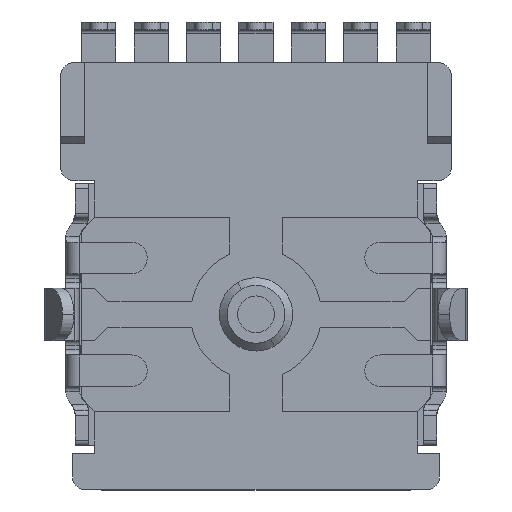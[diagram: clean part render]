
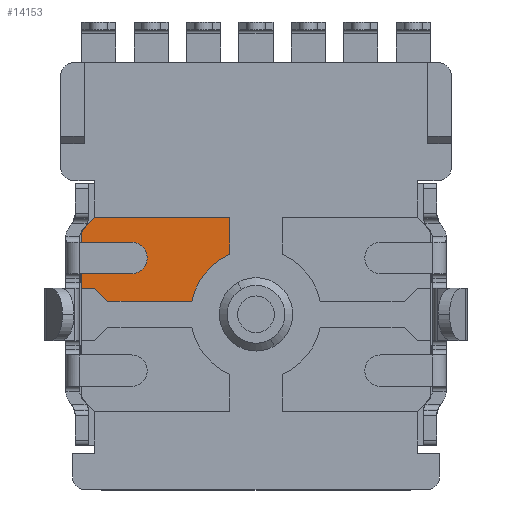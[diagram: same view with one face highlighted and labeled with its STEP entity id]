
A CAD part, front view. The second image highlights one B-rep face of the part: STEP entity #14153.
In plain terms, the highlighted planar face has unit normal (0, -1, 0).
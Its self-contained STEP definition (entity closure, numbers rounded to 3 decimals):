
#81 = CARTESIAN_POINT ( 'NONE',  ( -5.65, 0.8, -9.1 ) ) ;
#88 = EDGE_CURVE ( 'NONE', #7129, #28753, #19521, .T. ) ;
#111 = CARTESIAN_POINT ( 'NONE',  ( -6.15, 0.8, -8.6 ) ) ;
#2047 = ORIENTED_EDGE ( 'NONE', *, *, #88, .T. ) ;
#2129 = EDGE_LOOP ( 'NONE', ( #2047, #27870, #16487, #3308, #2990, #14058, #22866, #21583 ) ) ;
#2411 = VERTEX_POINT ( 'NONE', #24140 ) ;
#2789 = LINE ( 'NONE', #81, #10989 ) ;
#2990 = ORIENTED_EDGE ( 'NONE', *, *, #15950, .T. ) ;
#3308 = ORIENTED_EDGE ( 'NONE', *, *, #7298, .T. ) ;
#3692 = LINE ( 'NONE', #9481, #21626 ) ;
#4591 = EDGE_CURVE ( 'NONE', #2411, #35171, #32073, .T. ) ;
#4666 = CARTESIAN_POINT ( 'NONE',  ( 0., 0.8, -9.6 ) ) ;
#4823 = CARTESIAN_POINT ( 'NONE',  ( -6.65, 0.8, -5.9 ) ) ;
#5063 = CARTESIAN_POINT ( 'NONE',  ( -6.15, 0.8, -5.9 ) ) ;
#6533 = DIRECTION ( 'NONE',  ( 1., 0., 0. ) ) ;
#6778 = VECTOR ( 'NONE', #7216, 1000. ) ;
#6911 = LINE ( 'NONE', #30497, #22990 ) ;
#7129 = VERTEX_POINT ( 'NONE', #29723 ) ;
#7216 = DIRECTION ( 'NONE',  ( -0.707, 0., -0.707 ) ) ;
#7298 = EDGE_CURVE ( 'NONE', #35171, #27338, #6911, .T. ) ;
#7558 = FACE_OUTER_BOUND ( 'NONE', #2129, .T. ) ;
#9051 = DIRECTION ( 'NONE',  ( 0., 1., 0. ) ) ;
#9481 = CARTESIAN_POINT ( 'NONE',  ( -1., 0.8, -7.309 ) ) ;
#10989 = VECTOR ( 'NONE', #27466, 1000. ) ;
#11297 = VECTOR ( 'NONE', #36545, 1000. ) ;
#13912 = CARTESIAN_POINT ( 'NONE',  ( -5.65, 0.8, -9.1 ) ) ;
#14058 = ORIENTED_EDGE ( 'NONE', *, *, #20296, .T. ) ;
#14153 = ADVANCED_FACE ( 'NONE', ( #7558 ), #37504, .T. ) ;
#14665 = CARTESIAN_POINT ( 'NONE',  ( -6.65, 0.8, -8.6 ) ) ;
#14902 = CIRCLE ( 'NONE', #32198, 2.5 ) ;
#15521 = EDGE_CURVE ( 'NONE', #28753, #2411, #30234, .T. ) ;
#15559 = CARTESIAN_POINT ( 'NONE',  ( -4.925, 0.8, -4.675 ) ) ;
#15950 = EDGE_CURVE ( 'NONE', #27338, #37645, #25850, .T. ) ;
#16487 = ORIENTED_EDGE ( 'NONE', *, *, #4591, .T. ) ;
#17377 = DIRECTION ( 'NONE',  ( 0., 0., -1. ) ) ;
#19330 = DIRECTION ( 'NONE',  ( 0., 0., -1. ) ) ;
#19521 = LINE ( 'NONE', #36729, #11297 ) ;
#20296 = EDGE_CURVE ( 'NONE', #37645, #25501, #2789, .T. ) ;
#20746 = VECTOR ( 'NONE', #17377, 1000. ) ;
#21252 = DIRECTION ( 'NONE',  ( 0., 0., 1. ) ) ;
#21267 = AXIS2_PLACEMENT_3D ( 'NONE', #4666, #34221, #19330 ) ;
#21583 = ORIENTED_EDGE ( 'NONE', *, *, #23581, .T. ) ;
#21626 = VECTOR ( 'NONE', #21252, 1000. ) ;
#22138 = CARTESIAN_POINT ( 'NONE',  ( -1., 0.8, -7.309 ) ) ;
#22190 = CARTESIAN_POINT ( 'NONE',  ( -2.449, 0.8, -9.1 ) ) ;
#22866 = ORIENTED_EDGE ( 'NONE', *, *, #37841, .T. ) ;
#22990 = VECTOR ( 'NONE', #6533, 1000. ) ;
#23581 = EDGE_CURVE ( 'NONE', #24393, #7129, #3692, .T. ) ;
#24140 = CARTESIAN_POINT ( 'NONE',  ( -6.65, 0.8, -6.4 ) ) ;
#24393 = VERTEX_POINT ( 'NONE', #22138 ) ;
#24520 = DIRECTION ( 'NONE',  ( 0., 0., -1. ) ) ;
#24735 = VECTOR ( 'NONE', #34900, 1000. ) ;
#25501 = VERTEX_POINT ( 'NONE', #22190 ) ;
#25850 = LINE ( 'NONE', #111, #24735 ) ;
#27042 = CARTESIAN_POINT ( 'NONE',  ( 0., 0.8, -9.6 ) ) ;
#27338 = VERTEX_POINT ( 'NONE', #32501 ) ;
#27466 = DIRECTION ( 'NONE',  ( 1., 0., 0. ) ) ;
#27870 = ORIENTED_EDGE ( 'NONE', *, *, #15521, .T. ) ;
#28753 = VERTEX_POINT ( 'NONE', #5063 ) ;
#29723 = CARTESIAN_POINT ( 'NONE',  ( -1., 0.8, -5.9 ) ) ;
#30234 = LINE ( 'NONE', #15559, #6778 ) ;
#30497 = CARTESIAN_POINT ( 'NONE',  ( -6.65, 0.8, -8.6 ) ) ;
#32073 = LINE ( 'NONE', #4823, #20746 ) ;
#32198 = AXIS2_PLACEMENT_3D ( 'NONE', #27042, #9051, #24520 ) ;
#32501 = CARTESIAN_POINT ( 'NONE',  ( -6.15, 0.8, -8.6 ) ) ;
#34221 = DIRECTION ( 'NONE',  ( 0., -1., 0. ) ) ;
#34900 = DIRECTION ( 'NONE',  ( 0.707, 0., -0.707 ) ) ;
#35171 = VERTEX_POINT ( 'NONE', #14665 ) ;
#36545 = DIRECTION ( 'NONE',  ( -1., 0., 0. ) ) ;
#36729 = CARTESIAN_POINT ( 'NONE',  ( -6.65, 0.8, -5.9 ) ) ;
#37504 = PLANE ( 'NONE',  #21267 ) ;
#37645 = VERTEX_POINT ( 'NONE', #13912 ) ;
#37841 = EDGE_CURVE ( 'NONE', #25501, #24393, #14902, .T. ) ;
